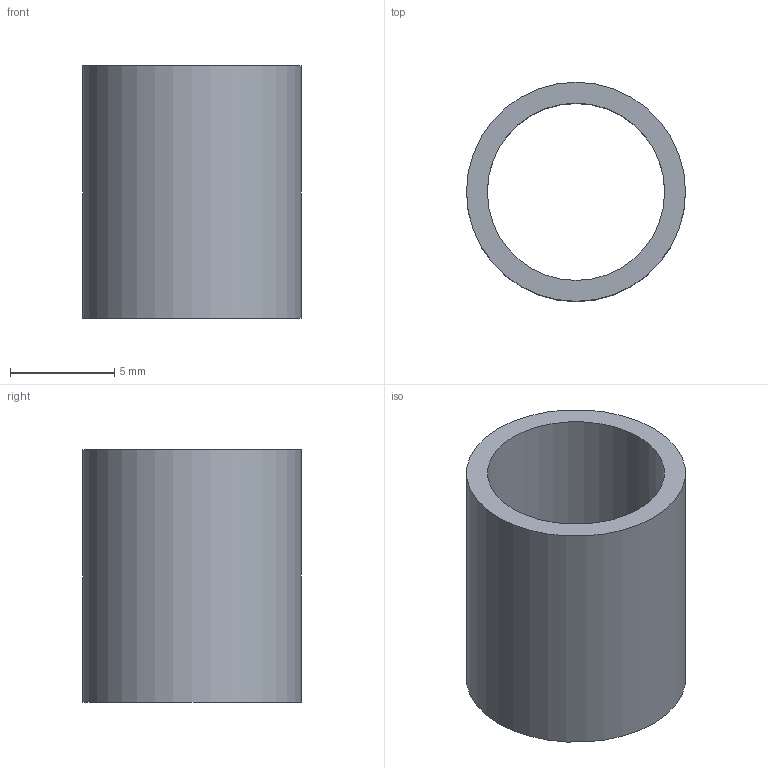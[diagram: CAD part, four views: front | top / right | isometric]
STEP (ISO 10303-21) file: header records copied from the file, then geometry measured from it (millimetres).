
FILE_DESCRIPTION(/* description */ (''),/* implementation_level */ '2;1');
FILE_NAME(/* name */ 'Lead Screw Spacer v1.step',/* time_stamp */ '2023-03-23T06:38:05-06:00',/* author */ (''),/* organization */ (''),/* preprocessor_version */ 'ST-DEVELOPER v19.2',/* originating_system */ 'Autodesk Translation Framework v11.17.0.187',/* authorisation */ '');
FILE_SCHEMA (('AUTOMOTIVE_DESIGN { 1 0 10303 214 3 1 1 }'));
Length unit declared in the file: millimetre
Products named in the file (2): Lead Screw Spacer; Lead Screw Spacer_1
Assembly tree (1 placements, depth 2):
  Lead Screw Spacer
    Lead Screw Spacer_1
Bounding box: 10.5 x 10.5 x 12.1 mm (x, y, z)
Volume: 361.1 mm3; surface area: 781.9 mm2
Topology: 1 solids, 1 shells, 4 faces, 6 edges, 4 vertices
Faces by surface type: cylinder 2, plane 2
Full cylindrical faces by diameter (mm): 8.5 x1, 10.5 x1
Entity records: 158 total; most frequent: DIRECTION 24, CARTESIAN_POINT 17, ORIENTED_EDGE 12, AXIS2_PLACEMENT_3D 11, EDGE_LOOP 6, EDGE_CURVE 6, FACE_OUTER_BOUND 4, CIRCLE 4
